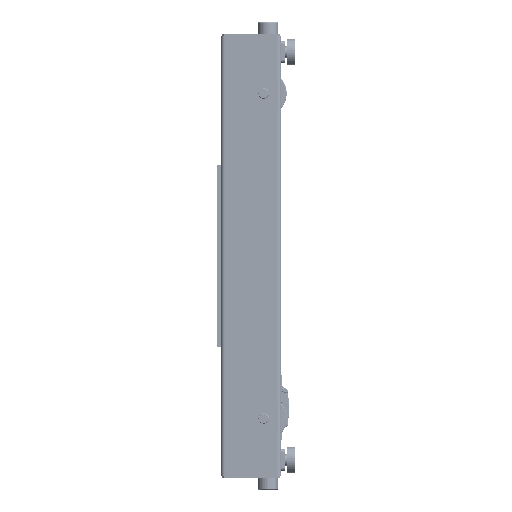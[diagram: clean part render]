
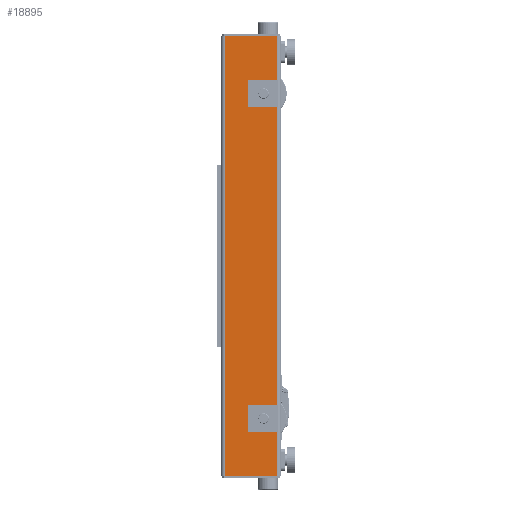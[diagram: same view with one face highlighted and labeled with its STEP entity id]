
A CAD part, left-side view. The second image highlights one B-rep face of the part: STEP entity #18895.
In plain terms, the highlighted planar face has unit normal (-1, 0, 0).
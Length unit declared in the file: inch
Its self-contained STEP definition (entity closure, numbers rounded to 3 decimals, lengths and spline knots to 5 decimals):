
#2710 = VERTEX_POINT ( 'NONE', #148248 ) ;
#4057 = DIRECTION ( 'NONE',  ( 0., -1., 0. ) ) ;
#15010 = CARTESIAN_POINT ( 'NONE',  ( 0., 0.5, 29.0625 ) ) ;
#18895 = ADVANCED_FACE ( 'NONE', ( #113066, #117236, #84352 ), #177799, .F. ) ;
#20621 = EDGE_CURVE ( 'NONE', #95006, #70246, #204020, .T. ) ;
#22472 = CARTESIAN_POINT ( 'NONE',  ( 0., 7.5, -29.0625 ) ) ;
#22853 = ORIENTED_EDGE ( 'NONE', *, *, #158313, .T. ) ;
#23202 = VERTEX_POINT ( 'NONE', #15010 ) ;
#25481 = ORIENTED_EDGE ( 'NONE', *, *, #20621, .T. ) ;
#30133 = CARTESIAN_POINT ( 'NONE',  ( 0., 2.326, -21.5005 ) ) ;
#30785 = VERTEX_POINT ( 'NONE', #22472 ) ;
#32062 = DIRECTION ( 'NONE',  ( 0., 1., 0. ) ) ;
#32495 = DIRECTION ( 'NONE',  ( 1., 0., 0. ) ) ;
#33138 = LINE ( 'NONE', #196419, #120121 ) ;
#38163 = LINE ( 'NONE', #198292, #196511 ) ;
#52962 = CARTESIAN_POINT ( 'NONE',  ( 0., 0.5, -29.0625 ) ) ;
#54915 = ORIENTED_EDGE ( 'NONE', *, *, #103560, .T. ) ;
#57698 = ORIENTED_EDGE ( 'NONE', *, *, #85516, .T. ) ;
#58668 = AXIS2_PLACEMENT_3D ( 'NONE', #85679, #135535, #115444 ) ;
#61246 = VERTEX_POINT ( 'NONE', #169281 ) ;
#63031 = DIRECTION ( 'NONE',  ( 0., 1., 0. ) ) ;
#63168 = DIRECTION ( 'NONE',  ( 0., 0., -1. ) ) ;
#64522 = AXIS2_PLACEMENT_3D ( 'NONE', #209146, #111566, #32062 ) ;
#64640 = AXIS2_PLACEMENT_3D ( 'NONE', #65386, #32495, #149078 ) ;
#65386 = CARTESIAN_POINT ( 'NONE',  ( 0., 0.5, 29.0625 ) ) ;
#67493 = DIRECTION ( 'NONE',  ( 1., 0., 0. ) ) ;
#70246 = VERTEX_POINT ( 'NONE', #187153 ) ;
#70400 = CIRCLE ( 'NONE', #199047, 0.69 ) ;
#71030 = DIRECTION ( 'NONE',  ( 0., -1., 0. ) ) ;
#77097 = EDGE_CURVE ( 'NONE', #61246, #168602, #150057, .T. ) ;
#79337 = ORIENTED_EDGE ( 'NONE', *, *, #113005, .T. ) ;
#79930 = DIRECTION ( 'NONE',  ( 1., 0., 0. ) ) ;
#80849 = DIRECTION ( 'NONE',  ( 0., 0., -1. ) ) ;
#82316 = CARTESIAN_POINT ( 'NONE',  ( 0., 2.326, -21.5005 ) ) ;
#84352 = FACE_OUTER_BOUND ( 'NONE', #156976, .T. ) ;
#84695 = LINE ( 'NONE', #52962, #179569 ) ;
#85516 = EDGE_CURVE ( 'NONE', #70246, #95006, #70400, .T. ) ;
#85679 = CARTESIAN_POINT ( 'NONE',  ( 0., 2.326, 21.4995 ) ) ;
#94916 = CARTESIAN_POINT ( 'NONE',  ( 0., 7.5, 29.0625 ) ) ;
#95006 = VERTEX_POINT ( 'NONE', #173912 ) ;
#96168 = EDGE_LOOP ( 'NONE', ( #129972, #22853 ) ) ;
#103560 = EDGE_CURVE ( 'NONE', #196312, #30785, #160695, .T. ) ;
#111566 = DIRECTION ( 'NONE',  ( 1., 0., 0. ) ) ;
#112571 = AXIS2_PLACEMENT_3D ( 'NONE', #82316, #67493, #160846 ) ;
#113005 = EDGE_CURVE ( 'NONE', #30785, #2710, #84695, .T. ) ;
#113066 = FACE_BOUND ( 'NONE', #178166, .T. ) ;
#115444 = DIRECTION ( 'NONE',  ( 0., 1., 0. ) ) ;
#117236 = FACE_BOUND ( 'NONE', #96168, .T. ) ;
#120121 = VECTOR ( 'NONE', #80849, 39.37008 ) ;
#129337 = CARTESIAN_POINT ( 'NONE',  ( 0., 7.5, 29.0625 ) ) ;
#129972 = ORIENTED_EDGE ( 'NONE', *, *, #77097, .T. ) ;
#135535 = DIRECTION ( 'NONE',  ( 1., 0., 0. ) ) ;
#137483 = VECTOR ( 'NONE', #63168, 39.37008 ) ;
#144149 = CARTESIAN_POINT ( 'NONE',  ( 0., 2.326, 22.1895 ) ) ;
#148244 = ORIENTED_EDGE ( 'NONE', *, *, #149608, .F. ) ;
#148248 = CARTESIAN_POINT ( 'NONE',  ( 0., 0.5, -29.0625 ) ) ;
#149078 = DIRECTION ( 'NONE',  ( 0., 1., 0. ) ) ;
#149608 = EDGE_CURVE ( 'NONE', #196312, #23202, #38163, .T. ) ;
#150057 = CIRCLE ( 'NONE', #58668, 0.69 ) ;
#156976 = EDGE_LOOP ( 'NONE', ( #79337, #172999, #148244, #54915 ) ) ;
#158313 = EDGE_CURVE ( 'NONE', #168602, #61246, #203457, .T. ) ;
#160695 = LINE ( 'NONE', #94916, #137483 ) ;
#160846 = DIRECTION ( 'NONE',  ( 0., 1., 0. ) ) ;
#165039 = EDGE_CURVE ( 'NONE', #23202, #2710, #33138, .T. ) ;
#168602 = VERTEX_POINT ( 'NONE', #144149 ) ;
#169281 = CARTESIAN_POINT ( 'NONE',  ( 0., 2.326, 20.8095 ) ) ;
#172999 = ORIENTED_EDGE ( 'NONE', *, *, #165039, .F. ) ;
#173912 = CARTESIAN_POINT ( 'NONE',  ( 0., 2.326, -20.8105 ) ) ;
#177799 = PLANE ( 'NONE',  #64640 ) ;
#178166 = EDGE_LOOP ( 'NONE', ( #57698, #25481 ) ) ;
#179569 = VECTOR ( 'NONE', #4057, 39.37008 ) ;
#187153 = CARTESIAN_POINT ( 'NONE',  ( 0., 2.326, -22.1905 ) ) ;
#196312 = VERTEX_POINT ( 'NONE', #129337 ) ;
#196419 = CARTESIAN_POINT ( 'NONE',  ( 0., 0.5, 29.0625 ) ) ;
#196511 = VECTOR ( 'NONE', #71030, 39.37008 ) ;
#198292 = CARTESIAN_POINT ( 'NONE',  ( 0., 0.5, 29.0625 ) ) ;
#199047 = AXIS2_PLACEMENT_3D ( 'NONE', #30133, #79930, #63031 ) ;
#203457 = CIRCLE ( 'NONE', #64522, 0.69 ) ;
#204020 = CIRCLE ( 'NONE', #112571, 0.69 ) ;
#209146 = CARTESIAN_POINT ( 'NONE',  ( 0., 2.326, 21.4995 ) ) ;
